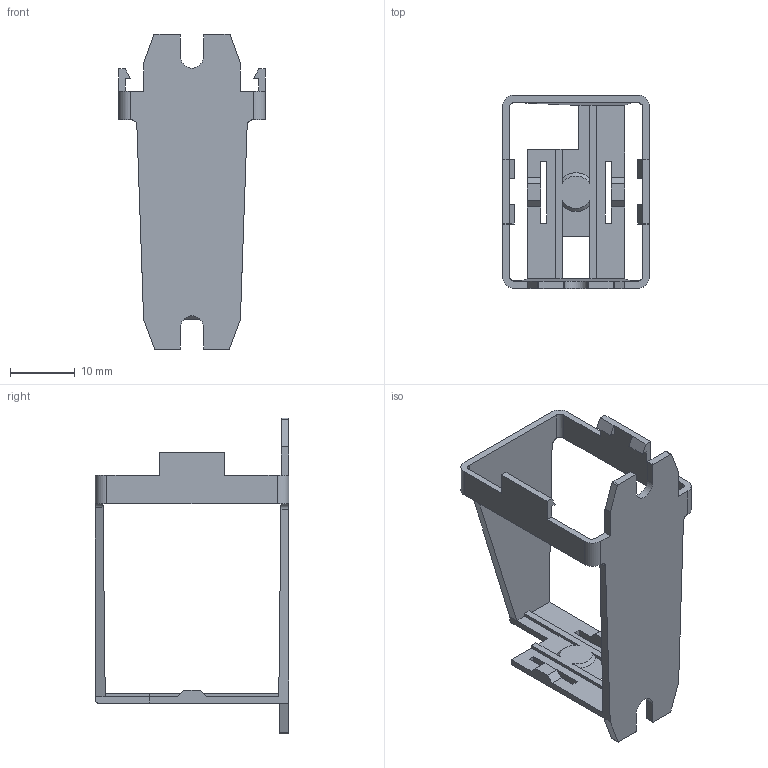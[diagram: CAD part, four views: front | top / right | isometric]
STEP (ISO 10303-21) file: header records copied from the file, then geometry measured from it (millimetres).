
FILE_DESCRIPTION( ( 'Unknown' ), '1' );
FILE_NAME( 'C:/Users/pdellaca/Desktop/156788---05626.stp', 'Unknown', ( 'Unknown' ), ( 'Unknown' ), 'PSStep 14.0', 'Unknown', ' ' );
FILE_SCHEMA( ( 'AUTOMOTIVE_DESIGN { 1 0 10303 214 1 1 1 1 }' ) );
Length unit declared in the file: millimetre
Products named in the file (1): 1
Bounding box: 22.7 x 30 x 48.9 mm (x, y, z)
Volume: 2254.2 mm3; surface area: 4276.5 mm2
Topology: 1 solids, 1 shells, 116 faces, 344 edges, 223 vertices
Faces by surface type: plane 88, cylinder 25, cone 3
Entity records: 4795 total; most frequent: CARTESIAN_POINT 695, ORIENTED_EDGE 686, DIRECTION 629, EDGE_CURVE 343, LINE 283, VECTOR 283, VERTEX_POINT 223, AXIS2_PLACEMENT_3D 173
